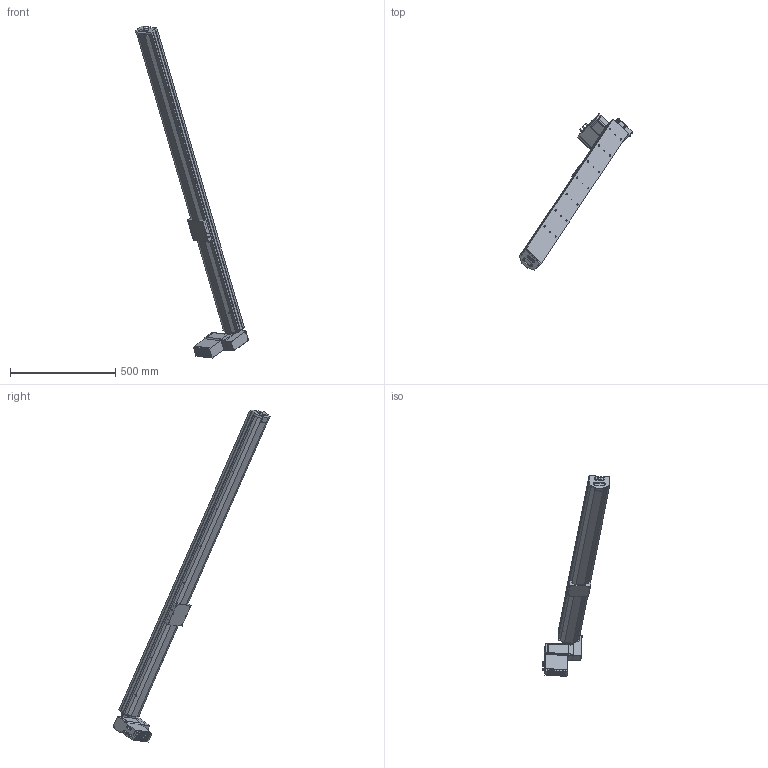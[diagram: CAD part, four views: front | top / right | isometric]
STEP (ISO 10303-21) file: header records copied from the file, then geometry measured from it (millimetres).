
FILE_DESCRIPTION (( 'STEP AP203' ), '1' );
FILE_NAME ('S10 CBH RT S1600.STEP', '2012-10-01T11:51:20', ( '' ), ( '' ), 'SwSTEP 2.0', 'SolidWorks 2010', '' );
FILE_SCHEMA (( 'CONFIG_CONTROL_DESIGN' ));
Length unit declared in the file: millimetre
Products named in the file (9): moteur M3_1; Plaque racord_; S10 CBH RT S1600; embout; palette tbh; moteur M3; plaque de bout; MOTEUR GMI 61 ; axe 1600
Assembly tree (7 placements, depth 3):
  S10 CBH RT S1600
    embout
    palette tbh
    axe 1600
    plaque de bout
      moteur M3_1
      Plaque racord_
    MOTEUR GMI 61 
  moteur M3
Bounding box: 541.61 x 748.55 x 1579.68 mm (x, y, z)
Volume: 9303888.2 mm3; surface area: 932819.2 mm2
Topology: 5 solids, 18 shells, 769 faces, 2000 edges, 1256 vertices
Faces by surface type: plane 381, cylinder 279, cone 74, torus 23, bspline 8, sphere 4
Entity records: 26649 total; most frequent: CARTESIAN_POINT 6845, DIRECTION 4007, ORIENTED_EDGE 3752, EDGE_CURVE 1926, AXIS2_PLACEMENT_3D 1382, VERTEX_POINT 1256, LINE 1243, VECTOR 1243
